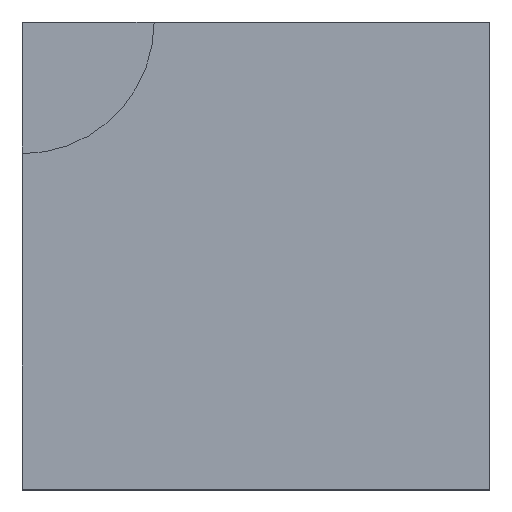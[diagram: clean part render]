
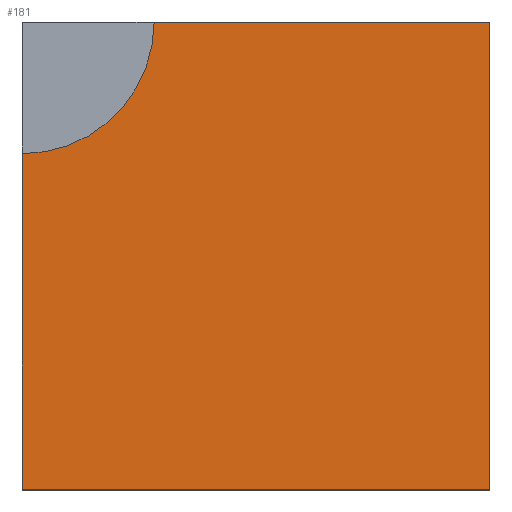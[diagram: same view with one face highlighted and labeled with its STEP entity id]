
A CAD part, top view. The second image highlights one B-rep face of the part: STEP entity #181.
In plain terms, the highlighted planar face has unit normal (0, 0, 1).
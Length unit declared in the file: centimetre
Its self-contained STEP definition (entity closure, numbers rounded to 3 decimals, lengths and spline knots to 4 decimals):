
#4 = VECTOR ( 'NONE', #258, 100. ) ;
#8 = CARTESIAN_POINT ( 'NONE',  ( 0., 0., 1000. ) ) ;
#27 = VERTEX_POINT ( 'NONE', #390 ) ;
#94 = CARTESIAN_POINT ( 'NONE',  ( 0., 1000., 1000. ) ) ;
#102 = DIRECTION ( 'NONE',  ( 0., 0., 1. ) ) ;
#104 = DIRECTION ( 'NONE',  ( 1., 0., 0. ) ) ;
#106 = CARTESIAN_POINT ( 'NONE',  ( 0., 0., 1000. ) ) ;
#136 = ORIENTED_EDGE ( 'NONE', *, *, #142, .T. ) ;
#142 = EDGE_CURVE ( 'NONE', #436, #27, #287, .T. ) ;
#160 = LINE ( 'NONE', #554, #458 ) ;
#163 = CARTESIAN_POINT ( 'NONE',  ( 1000., 1000., 1000. ) ) ;
#175 = VECTOR ( 'NONE', #416, 100. ) ;
#181 = ADVANCED_FACE ( 'NONE', ( #541 ), #495, .T. ) ;
#200 = LINE ( 'NONE', #373, #401 ) ;
#221 = CARTESIAN_POINT ( 'NONE',  ( 0., 718.1307, 1000. ) ) ;
#249 = EDGE_CURVE ( 'NONE', #542, #473, #200, .T. ) ;
#250 = DIRECTION ( 'NONE',  ( 1., 0., 0. ) ) ;
#258 = DIRECTION ( 'NONE',  ( 0., 1., 0. ) ) ;
#287 = LINE ( 'NONE', #94, #175 ) ;
#288 = EDGE_CURVE ( 'NONE', #514, #542, #160, .T. ) ;
#301 = EDGE_CURVE ( 'NONE', #473, #436, #475, .T. ) ;
#302 = ORIENTED_EDGE ( 'NONE', *, *, #288, .T. ) ;
#305 = CARTESIAN_POINT ( 'NONE',  ( 1000., 0., 1000. ) ) ;
#330 = ORIENTED_EDGE ( 'NONE', *, *, #301, .T. ) ;
#334 = EDGE_CURVE ( 'NONE', #514, #27, #343, .T. ) ;
#343 = CIRCLE ( 'NONE', #415, 281.8693 ) ;
#353 = ORIENTED_EDGE ( 'NONE', *, *, #249, .T. ) ;
#358 = AXIS2_PLACEMENT_3D ( 'NONE', #106, #102, #104 ) ;
#373 = CARTESIAN_POINT ( 'NONE',  ( 0., 0., 1000. ) ) ;
#375 = CARTESIAN_POINT ( 'NONE',  ( 0., 1000., 1000. ) ) ;
#382 = DIRECTION ( 'NONE',  ( 0., -1., 0. ) ) ;
#390 = CARTESIAN_POINT ( 'NONE',  ( 281.8693, 1000., 1000. ) ) ;
#401 = VECTOR ( 'NONE', #250, 100. ) ;
#415 = AXIS2_PLACEMENT_3D ( 'NONE', #375, #462, #511 ) ;
#416 = DIRECTION ( 'NONE',  ( -1., 0., 0. ) ) ;
#436 = VERTEX_POINT ( 'NONE', #442 ) ;
#442 = CARTESIAN_POINT ( 'NONE',  ( 1000., 1000., 1000. ) ) ;
#458 = VECTOR ( 'NONE', #382, 100. ) ;
#462 = DIRECTION ( 'NONE',  ( 0., 0., 1. ) ) ;
#473 = VERTEX_POINT ( 'NONE', #305 ) ;
#475 = LINE ( 'NONE', #163, #4 ) ;
#495 = PLANE ( 'NONE',  #358 ) ;
#511 = DIRECTION ( 'NONE',  ( 1., 0., 0. ) ) ;
#514 = VERTEX_POINT ( 'NONE', #221 ) ;
#525 = EDGE_LOOP ( 'NONE', ( #528, #302, #353, #330, #136 ) ) ;
#528 = ORIENTED_EDGE ( 'NONE', *, *, #334, .F. ) ;
#541 = FACE_OUTER_BOUND ( 'NONE', #525, .T. ) ;
#542 = VERTEX_POINT ( 'NONE', #8 ) ;
#554 = CARTESIAN_POINT ( 'NONE',  ( 0., 1000., 1000. ) ) ;
